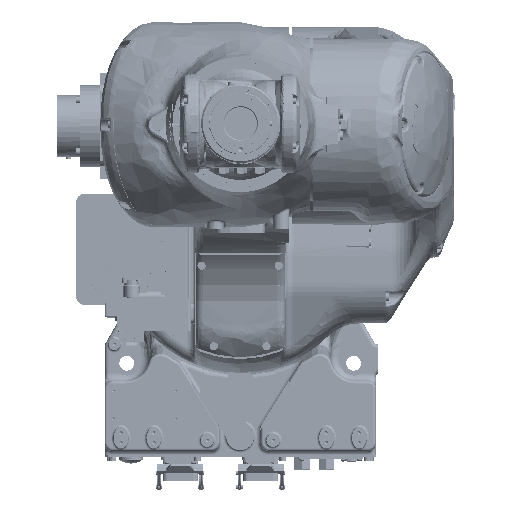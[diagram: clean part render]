
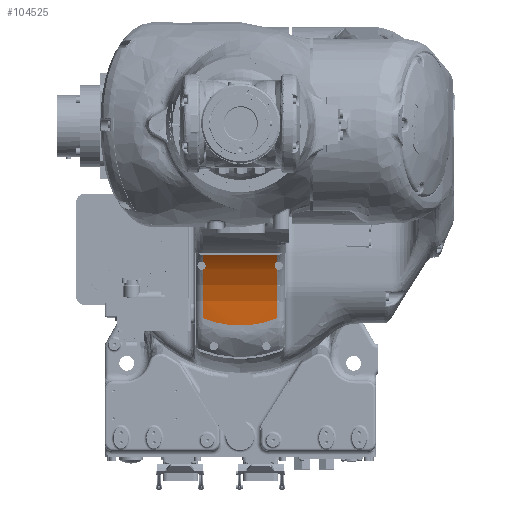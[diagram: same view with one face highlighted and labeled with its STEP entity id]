
A CAD part, top view. The second image highlights one B-rep face of the part: STEP entity #104525.
In plain terms, the highlighted cylindrical face has radius 130 mm (diameter 260 mm), a partial arc.
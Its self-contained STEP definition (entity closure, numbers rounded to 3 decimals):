
#99969=CARTESIAN_POINT('Vertex',(45.,-83.858,-81.784)) ;
#99973=CARTESIAN_POINT('Control Point',(43.771,-84.368,-81.828)) ;
#99974=CARTESIAN_POINT('Control Point',(44.079,-84.242,-81.817)) ;
#99975=CARTESIAN_POINT('Control Point',(44.387,-84.115,-81.807)) ;
#99976=CARTESIAN_POINT('Control Point',(44.694,-83.987,-81.795)) ;
#99977=CARTESIAN_POINT('Control Point',(45.,-83.858,-81.784)) ;
#99978=CARTESIAN_POINT('Vertex',(43.771,-84.368,-81.828)) ;
#100091=CARTESIAN_POINT('Vertex',(45.,-15.417,-54.776)) ;
#100095=CARTESIAN_POINT('Control Point',(45.,-15.417,-54.776)) ;
#100096=CARTESIAN_POINT('Control Point',(43.819,-15.933,-55.178)) ;
#100097=CARTESIAN_POINT('Control Point',(42.888,-16.799,-55.849)) ;
#100098=CARTESIAN_POINT('Control Point',(42.309,-17.8,-56.605)) ;
#100099=CARTESIAN_POINT('Control Point',(42.,-18.901,-57.41)) ;
#100100=CARTESIAN_POINT('Control Point',(42.,-20.,-58.193)) ;
#100101=CARTESIAN_POINT('Vertex',(42.,-20.,-58.193)) ;
#100128=CARTESIAN_POINT('Control Point',(45.,-24.583,-61.311)) ;
#100129=CARTESIAN_POINT('Control Point',(43.826,-24.07,-60.978)) ;
#100130=CARTESIAN_POINT('Control Point',(42.873,-23.201,-60.409)) ;
#100131=CARTESIAN_POINT('Control Point',(42.293,-22.164,-59.714)) ;
#100132=CARTESIAN_POINT('Control Point',(42.,-21.078,-58.961)) ;
#100133=CARTESIAN_POINT('Control Point',(42.,-20.,-58.193)) ;
#100134=CARTESIAN_POINT('Vertex',(45.,-24.583,-61.311)) ;
#100849=CARTESIAN_POINT('Control Point',(43.771,-84.368,-81.828)) ;
#100850=CARTESIAN_POINT('Control Point',(36.638,-87.268,-82.075)) ;
#100851=CARTESIAN_POINT('Control Point',(29.07,-89.537,-82.187)) ;
#100852=CARTESIAN_POINT('Control Point',(21.222,-91.158,-82.234)) ;
#100853=CARTESIAN_POINT('Control Point',(2.886,-93.396,-82.287)) ;
#100854=CARTESIAN_POINT('Control Point',(-15.68,-92.247,-82.258)) ;
#100855=CARTESIAN_POINT('Control Point',(-25.977,-90.525,-82.233)) ;
#100856=CARTESIAN_POINT('Control Point',(-35.864,-87.718,-82.128)) ;
#100857=CARTESIAN_POINT('Control Point',(-45.,-83.858,-81.784)) ;
#100858=CARTESIAN_POINT('Vertex',(-45.,-83.858,-81.784)) ;
#104384=CARTESIAN_POINT('Control Point',(-45.,-15.417,-54.776)) ;
#104385=CARTESIAN_POINT('Control Point',(-43.819,-15.933,-55.178)) ;
#104386=CARTESIAN_POINT('Control Point',(-42.888,-16.799,-55.849)) ;
#104387=CARTESIAN_POINT('Control Point',(-42.309,-17.8,-56.605)) ;
#104388=CARTESIAN_POINT('Control Point',(-42.,-18.901,-57.41)) ;
#104389=CARTESIAN_POINT('Control Point',(-42.,-20.,-58.193)) ;
#104390=CARTESIAN_POINT('Vertex',(-45.,-15.417,-54.776)) ;
#104392=CARTESIAN_POINT('Vertex',(-42.,-20.,-58.193)) ;
#104459=CARTESIAN_POINT('Vertex',(-45.,-24.583,-61.311)) ;
#104463=CARTESIAN_POINT('Control Point',(-45.,-24.583,-61.311)) ;
#104464=CARTESIAN_POINT('Control Point',(-43.826,-24.07,-60.978)) ;
#104465=CARTESIAN_POINT('Control Point',(-42.873,-23.201,-60.409)) ;
#104466=CARTESIAN_POINT('Control Point',(-42.293,-22.164,-59.714)) ;
#104467=CARTESIAN_POINT('Control Point',(-42.,-21.078,-58.961)) ;
#104468=CARTESIAN_POINT('Control Point',(-42.,-20.,-58.193)) ;
#104478=CARTESIAN_POINT('Axis2P3D Location',(0.,-95.407,47.702)) ;
#104483=CARTESIAN_POINT('Axis2P3D Location',(45.,-95.407,47.702)) ;
#104487=CARTESIAN_POINT('Vertex',(45.,-7.423,-48.)) ;
#104490=CARTESIAN_POINT('Line Origine',(0.,-7.423,-48.)) ;
#104494=CARTESIAN_POINT('Vertex',(-45.,-7.423,-48.)) ;
#104497=CARTESIAN_POINT('Axis2P3D Location',(-45.,-95.407,47.702)) ;
#104502=CARTESIAN_POINT('Axis2P3D Location',(-45.,-95.407,47.702)) ;
#104507=CARTESIAN_POINT('Axis2P3D Location',(45.,-95.407,47.702)) ;
#104479=DIRECTION('Axis2P3D Direction',(1.,0.,0.)) ;
#104480=DIRECTION('Axis2P3D XDirection',(0.,-1.,0.)) ;
#104484=DIRECTION('Axis2P3D Direction',(1.,0.,0.)) ;
#104491=DIRECTION('Vector Direction',(1.,0.,0.)) ;
#104498=DIRECTION('Axis2P3D Direction',(1.,0.,0.)) ;
#104503=DIRECTION('Axis2P3D Direction',(1.,0.,0.)) ;
#104508=DIRECTION('Axis2P3D Direction',(1.,0.,0.)) ;
#104481=AXIS2_PLACEMENT_3D('Cylinder Axis2P3D',#104478,#104479,#104480) ;
#104485=AXIS2_PLACEMENT_3D('Circle Axis2P3D',#104483,#104484,$) ;
#104499=AXIS2_PLACEMENT_3D('Circle Axis2P3D',#104497,#104498,$) ;
#104504=AXIS2_PLACEMENT_3D('Circle Axis2P3D',#104502,#104503,$) ;
#104509=AXIS2_PLACEMENT_3D('Circle Axis2P3D',#104507,#104508,$) ;
#104513=ORIENTED_EDGE('',*,*,#100136,.T.) ;
#104514=ORIENTED_EDGE('',*,*,#100103,.F.) ;
#104515=ORIENTED_EDGE('',*,*,#104489,.T.) ;
#104516=ORIENTED_EDGE('',*,*,#104496,.F.) ;
#104517=ORIENTED_EDGE('',*,*,#104501,.F.) ;
#104518=ORIENTED_EDGE('',*,*,#104394,.T.) ;
#104519=ORIENTED_EDGE('',*,*,#104469,.F.) ;
#104520=ORIENTED_EDGE('',*,*,#104506,.F.) ;
#104521=ORIENTED_EDGE('',*,*,#100860,.F.) ;
#104522=ORIENTED_EDGE('',*,*,#99980,.F.) ;
#104523=ORIENTED_EDGE('',*,*,#104511,.T.) ;
#104492=VECTOR('Line Direction',#104491,1.) ;
#104525=ADVANCED_FACE('J1',(#104524),#104482,.F.) ;
#99972=B_SPLINE_CURVE_WITH_KNOTS('',4,(#99973,#99974,#99975,#99976,#99977),.UNSPECIFIED.,.F.,.U.,(5,5),(0.,1.357),.UNSPECIFIED.) ;
#100094=B_SPLINE_CURVE_WITH_KNOTS('',5,(#100095,#100096,#100097,#100098,#100099,#100100),.UNSPECIFIED.,.F.,.U.,(6,6),(0.,9.659),.UNSPECIFIED.) ;
#100127=B_SPLINE_CURVE_WITH_KNOTS('',5,(#100128,#100129,#100130,#100131,#100132,#100133),.UNSPECIFIED.,.F.,.U.,(6,6),(0.,9.48),.UNSPECIFIED.) ;
#100848=B_SPLINE_CURVE_WITH_KNOTS('',5,(#100849,#100850,#100851,#100852,#100853,#100854,#100855,#100856,#100857),.UNSPECIFIED.,.F.,.U.,(6,3,6),(0.,49.239,112.845),.UNSPECIFIED.) ;
#104383=B_SPLINE_CURVE_WITH_KNOTS('',5,(#104384,#104385,#104386,#104387,#104388,#104389),.UNSPECIFIED.,.F.,.U.,(6,6),(0.,9.659),.UNSPECIFIED.) ;
#104462=B_SPLINE_CURVE_WITH_KNOTS('',5,(#104463,#104464,#104465,#104466,#104467,#104468),.UNSPECIFIED.,.F.,.U.,(6,6),(0.,9.48),.UNSPECIFIED.) ;
#104486=CIRCLE('generated circle',#104485,130.) ;
#104500=CIRCLE('generated circle',#104499,130.) ;
#104505=CIRCLE('generated circle',#104504,130.) ;
#104510=CIRCLE('generated circle',#104509,130.) ;
#104482=CYLINDRICAL_SURFACE('generated cylinder',#104481,130.) ;
#99980=EDGE_CURVE('',#99970,#99979,#99972,.F.) ;
#100103=EDGE_CURVE('',#100092,#100102,#100094,.T.) ;
#100136=EDGE_CURVE('',#100135,#100102,#100127,.T.) ;
#100860=EDGE_CURVE('',#99979,#100859,#100848,.T.) ;
#104394=EDGE_CURVE('',#104391,#104393,#104383,.T.) ;
#104469=EDGE_CURVE('',#104460,#104393,#104462,.T.) ;
#104489=EDGE_CURVE('',#100092,#104488,#104486,.T.) ;
#104496=EDGE_CURVE('',#104495,#104488,#104493,.T.) ;
#104501=EDGE_CURVE('',#104391,#104495,#104500,.T.) ;
#104506=EDGE_CURVE('',#100859,#104460,#104505,.T.) ;
#104511=EDGE_CURVE('',#99970,#100135,#104510,.T.) ;
#104512=EDGE_LOOP('',(#104513,#104514,#104515,#104516,#104517,#104518,#104519,#104520,#104521,#104522,#104523)) ;
#104524=FACE_OUTER_BOUND('',#104512,.T.) ;
#104493=LINE('Line',#104490,#104492) ;
#99970=VERTEX_POINT('',#99969) ;
#99979=VERTEX_POINT('',#99978) ;
#100092=VERTEX_POINT('',#100091) ;
#100102=VERTEX_POINT('',#100101) ;
#100135=VERTEX_POINT('',#100134) ;
#100859=VERTEX_POINT('',#100858) ;
#104391=VERTEX_POINT('',#104390) ;
#104393=VERTEX_POINT('',#104392) ;
#104460=VERTEX_POINT('',#104459) ;
#104488=VERTEX_POINT('',#104487) ;
#104495=VERTEX_POINT('',#104494) ;
